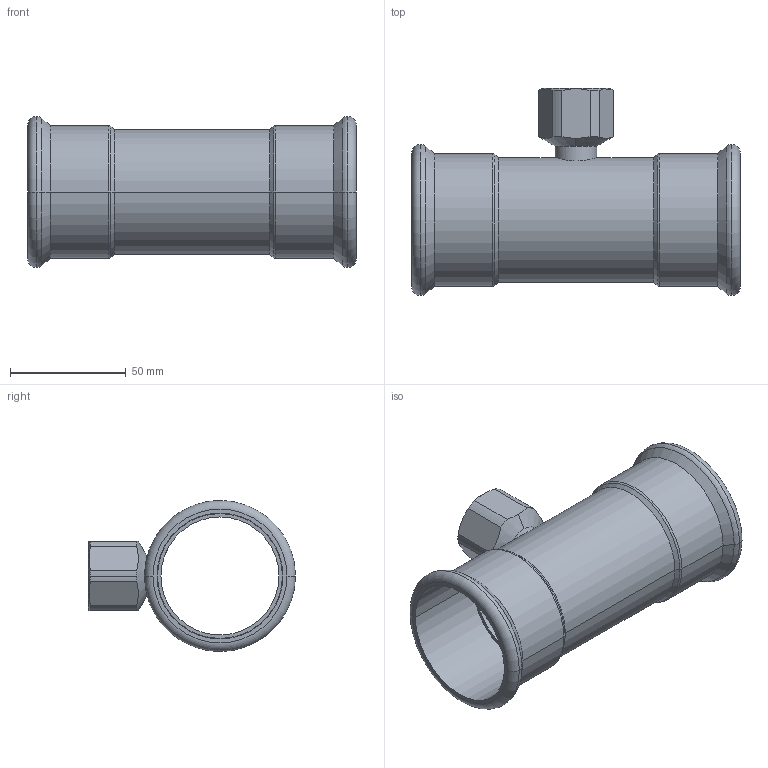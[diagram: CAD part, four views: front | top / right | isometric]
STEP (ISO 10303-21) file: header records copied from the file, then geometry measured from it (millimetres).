
FILE_DESCRIPTION(('CoCreate Modeling STEP Export'),'2;1');
FILE_NAME('C1418 54xRp3-4x54.stp','2014-11-12T15:21:43',(''),(''),'CoCreate Modeling STEP processor for AP214 (Solid Model)','CoCreate Modeling 17.00A 17-Jun-2010 (C) Parametric Technology GmbH','');
FILE_SCHEMA(('AUTOMOTIVE_DESIGN { 1 0 10303 214 1 1 1 1 }'));
Length unit declared in the file: millimetre
Products named in the file (2): C1418_54xRp3-4x54
Assembly tree (1 placements, depth 2):
  C1418_54xRp3-4x54
    C1418_54xRp3-4x54
Bounding box: 142 x 89.48 x 65.3 mm (x, y, z)
Volume: 54447.8 mm3; surface area: 56960.2 mm2
Topology: 1 solids, 1 shells, 68 faces, 160 edges, 98 vertices
Faces by surface type: cylinder 30, plane 14, cone 12, torus 12
Entity records: 3194 total; most frequent: CARTESIAN_POINT 1783, ORIENTED_EDGE 320, DIRECTION 242, EDGE_CURVE 160, VERTEX_POINT 98, AXIS2_PLACEMENT_3D 97, EDGE_LOOP 76, FACE_OUTER_BOUND 68
